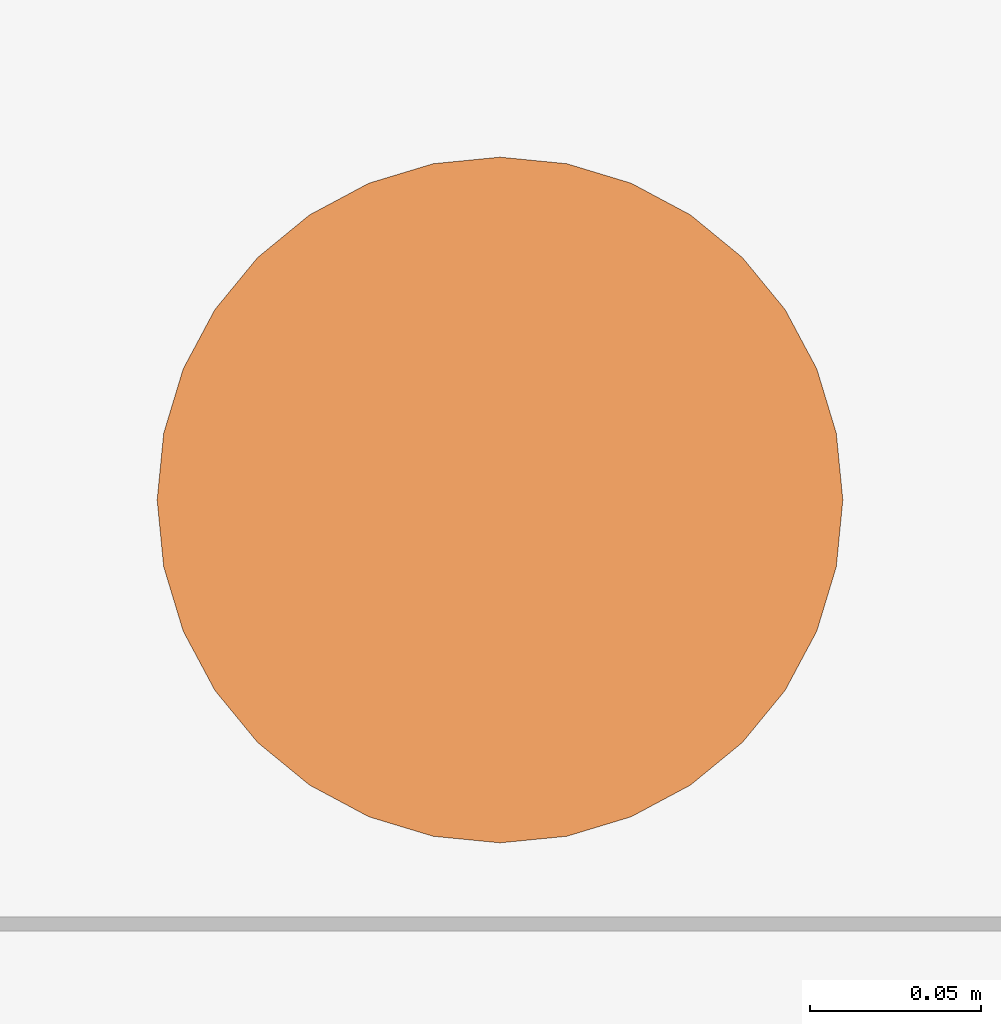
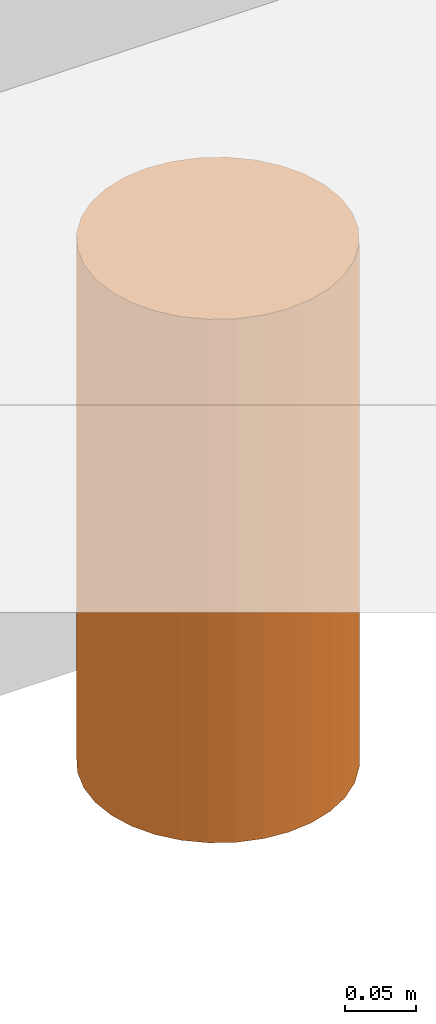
# One storey, part 7 of 7: 1 proxy.
"""IFC2X3 building model written with IfcOpenShell, lengths in metres."""

from ifc_helpers import new_model, entity, si_unit, converted_unit, derived_unit, direction, frame, frame_2d, origin, place, context, subcontext, project, spatial, circle, extrude, source, transform, mapped, material, type_object, type_shapes, element, save


model = new_model("IFC2X3")

# Units and contexts
model_context = context("Model", 3, precision=1e-05, world=origin(), true_north=direction((6.123031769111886e-17, 1.0)))
body_context = subcontext(model_context, "Body", "Model", "MODEL_VIEW")
ifc_project = project(units=[si_unit("LENGTHUNIT", "METRE"), si_unit("AREAUNIT", "SQUARE_METRE"), si_unit("VOLUMEUNIT", "CUBIC_METRE"), converted_unit("PLANEANGLEUNIT", "DEGREE", entity("IfcRatioMeasure", 0.017453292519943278), si_unit("PLANEANGLEUNIT", "RADIAN"), dimensions=[0, 0, 0, 0, 0, 0, 0]), si_unit("MASSUNIT", "GRAM", prefix="KILO"), derived_unit("MASSDENSITYUNIT", [(si_unit("MASSUNIT", "GRAM", prefix="KILO"), 1), (si_unit("LENGTHUNIT", "METRE"), -3)]), derived_unit("IONCONCENTRATIONUNIT", [(si_unit("MASSUNIT", "GRAM", prefix="KILO"), 1), (si_unit("LENGTHUNIT", "METRE"), -3)]), derived_unit("MOMENTOFINERTIAUNIT", [(si_unit("LENGTHUNIT", "METRE"), 4)]), si_unit("TIMEUNIT", "SECOND"), si_unit("FREQUENCYUNIT", "HERTZ"), si_unit("THERMODYNAMICTEMPERATUREUNIT", "DEGREE_CELSIUS"), derived_unit("THERMALTRANSMITTANCEUNIT", [(si_unit("MASSUNIT", "GRAM", prefix="KILO"), 1), (si_unit("THERMODYNAMICTEMPERATUREUNIT", "KELVIN"), -1), (si_unit("TIMEUNIT", "SECOND"), -3)]), derived_unit("THERMALCONDUCTANCEUNIT", [(si_unit("MASSUNIT", "GRAM", prefix="KILO"), 1), (si_unit("THERMODYNAMICTEMPERATUREUNIT", "KELVIN"), -1), (si_unit("TIMEUNIT", "SECOND"), -3), (si_unit("LENGTHUNIT", "METRE"), 1)]), derived_unit("VOLUMETRICFLOWRATEUNIT", [(si_unit("LENGTHUNIT", "METRE"), 3), (si_unit("TIMEUNIT", "SECOND"), -1)]), derived_unit("MASSFLOWRATEUNIT", [(si_unit("MASSUNIT", "GRAM", prefix="KILO"), 1), (si_unit("TIMEUNIT", "SECOND"), -1)]), derived_unit("ROTATIONALFREQUENCYUNIT", [(si_unit("TIMEUNIT", "SECOND"), -1)]), si_unit("ELECTRICCURRENTUNIT", "AMPERE"), si_unit("ELECTRICVOLTAGEUNIT", "VOLT"), si_unit("POWERUNIT", "WATT"), si_unit("FORCEUNIT", "NEWTON", prefix="KILO"), si_unit("ILLUMINANCEUNIT", "LUX"), si_unit("LUMINOUSFLUXUNIT", "LUMEN"), si_unit("LUMINOUSINTENSITYUNIT", "CANDELA"), derived_unit("USERDEFINED", [(si_unit("MASSUNIT", "GRAM", prefix="KILO"), -1), (si_unit("LENGTHUNIT", "METRE"), -2), (si_unit("TIMEUNIT", "SECOND"), 3), (si_unit("LUMINOUSFLUXUNIT", "LUMEN"), 1)]), derived_unit("USERDEFINED", [(si_unit("MASSUNIT", "GRAM", prefix="KILO"), 1), (si_unit("TIMEUNIT", "SECOND"), -3), (si_unit("LENGTHUNIT", "METRE"), 3), (si_unit("ELECTRICCURRENTUNIT", "AMPERE"), -2)]), derived_unit("SOUNDPOWERUNIT", [(si_unit("MASSUNIT", "GRAM", prefix="KILO"), 1), (si_unit("TIMEUNIT", "SECOND"), -3), (si_unit("LENGTHUNIT", "METRE"), 2)]), derived_unit("SOUNDPRESSUREUNIT", [(si_unit("MASSUNIT", "GRAM", prefix="KILO"), 1), (si_unit("LENGTHUNIT", "METRE"), -1), (si_unit("TIMEUNIT", "SECOND"), -2)]), derived_unit("LINEARVELOCITYUNIT", [(si_unit("LENGTHUNIT", "METRE"), 1), (si_unit("TIMEUNIT", "SECOND"), -1)]), si_unit("PRESSUREUNIT", "PASCAL"), derived_unit("USERDEFINED", [(si_unit("MASSUNIT", "GRAM", prefix="KILO"), 1), (si_unit("LENGTHUNIT", "METRE"), -2), (si_unit("TIMEUNIT", "SECOND"), -2)]), derived_unit("LINEARFORCEUNIT", [(si_unit("MASSUNIT", "GRAM", prefix="KILO"), 1), (si_unit("TIMEUNIT", "SECOND"), -2)]), derived_unit("PLANARFORCEUNIT", [(si_unit("MASSUNIT", "GRAM", prefix="KILO"), 1), (si_unit("LENGTHUNIT", "METRE"), -1), (si_unit("TIMEUNIT", "SECOND"), -2)]), derived_unit("SPECIFICHEATCAPACITYUNIT", [(si_unit("THERMODYNAMICTEMPERATUREUNIT", "KELVIN"), -1), (si_unit("LENGTHUNIT", "METRE"), 2), (si_unit("TIMEUNIT", "SECOND"), -2)]), derived_unit("HEATINGVALUEUNIT", [(si_unit("LENGTHUNIT", "METRE"), 2), (si_unit("TIMEUNIT", "SECOND"), -2)]), derived_unit("VAPORPERMEABILITYUNIT", [(si_unit("LENGTHUNIT", "METRE"), -1), (si_unit("TIMEUNIT", "SECOND"), 1)]), derived_unit("DYNAMICVISCOSITYUNIT", [(si_unit("MASSUNIT", "GRAM", prefix="KILO"), 1), (si_unit("TIMEUNIT", "SECOND"), -1), (si_unit("LENGTHUNIT", "METRE"), -1)]), derived_unit("THERMALEXPANSIONCOEFFICIENTUNIT", [(si_unit("THERMODYNAMICTEMPERATUREUNIT", "KELVIN"), -1)]), derived_unit("MODULUSOFELASTICITYUNIT", [(si_unit("MASSUNIT", "GRAM", prefix="KILO"), 1), (si_unit("LENGTHUNIT", "METRE"), -1), (si_unit("TIMEUNIT", "SECOND"), -2)]), derived_unit("ISOTHERMALMOISTURECAPACITYUNIT", [(si_unit("LENGTHUNIT", "METRE"), 3), (si_unit("MASSUNIT", "GRAM", prefix="KILO"), -1)]), derived_unit("MOISTUREDIFFUSIVITYUNIT", [(si_unit("TIMEUNIT", "SECOND"), -1), (si_unit("LENGTHUNIT", "METRE"), 2)])], contexts=[model_context])

# Site, building, storey
site_placement = place(None, frame((1.2553507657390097, -0.6266432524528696, -1.0397761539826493), z_axis=(0.0, 0.0, 1.0), x_axis=(-1.0, 0.0, 0.0)))
site = spatial("IfcSite", under=ifc_project, at=site_placement, Name="Default", CompositionType="ELEMENT")
building_placement = place(site_placement, origin())
building = spatial("IfcBuilding", under=site, at=building_placement, Name="MAISON D'HABITATION", CompositionType="ELEMENT")
storey_placement = place(building_placement, frame((0.0, 0.0, 0.38977615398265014)))
storey = spatial("IfcBuildingStorey", under=building, at=storey_placement, Name="Niveau dessus semelle filante", CompositionType="ELEMENT", Elevation=0.38977615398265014)

# Proxy
ifc_material = material(Name="<Unnamed>")
building_element_proxy_type = type_object("IfcBuildingElementProxyType", Name="possition evac:possition evac", PredefinedType="NOTDEFINED", material=ifc_material)
shared_shape = source(origin(), body_context, "Body", "SweptSolid", [
    extrude(circle(Radius=0.1, at=frame_2d((1.903783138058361e-19, -1.6155445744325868e-16), x_axis=(1.0, 0.0))), frame((0.0, 0.0, -0.5000000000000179)), (0.0, 0.0, 1.0), 0.45112032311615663),
])
type_shapes(building_element_proxy_type, [shared_shape])
proxy_placement = place(storey_placement, frame((3.5381330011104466, -8.291816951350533, 0.5199999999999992)))
element("IfcBuildingElementProxy", 1, at=proxy_placement, inside=storey, type_object=building_element_proxy_type, material=ifc_material, Name="possition evac:possition evac", ObjectType="possition evac:possition evac", context=body_context, shape_type="MappedRepresentation", body=[
    mapped(shared_shape, transform((0.0, 0.0, 0.0), scale=1.0)),
])

save(model, "model.ifc")
